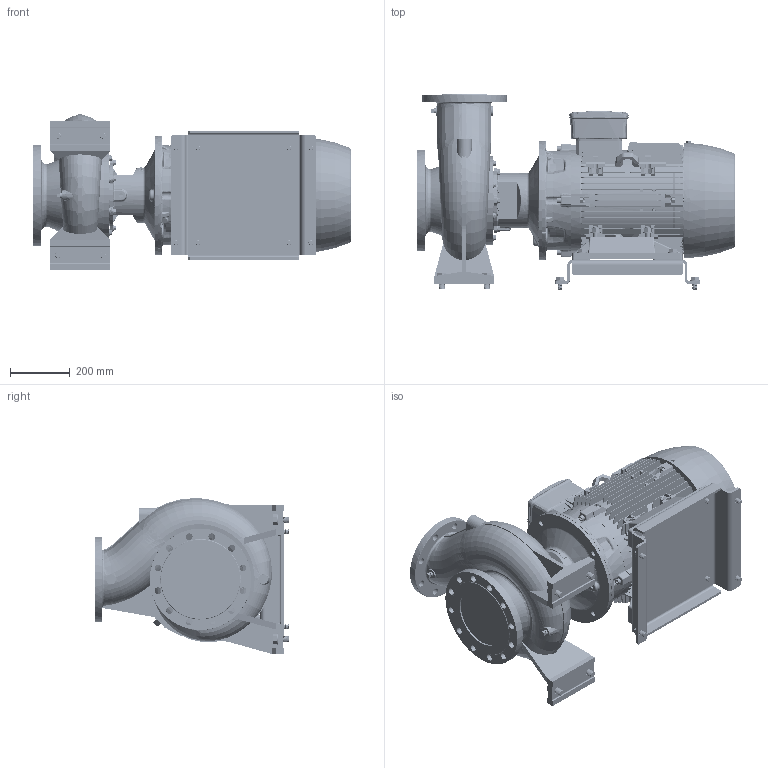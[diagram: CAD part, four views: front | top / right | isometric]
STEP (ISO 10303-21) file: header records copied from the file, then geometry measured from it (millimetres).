
FILE_DESCRIPTION (( 'STEP AP214' ), '1' );
FILE_NAME ('GSD2 150-200_37.0_(200ML)_W21.STEP', '2026-07-07T04:40:05', ( '' ), ( '' ), 'SwSTEP 2.0', 'SolidWorks 2024', '' );
FILE_SCHEMA (( 'AUTOMOTIVE_DESIGN' ));
Length unit declared in the file: millimetre
Products named in the file (12): Parametric bolt_SFT-A359B; Parametric bolt_SFT-A403B; Parametric bolt_SFT-A351B; Parametric Flat Washer_M16; CGS11-5273; 150-200-200M_L_ﾃﾞﾌｫﾙﾄ; GSD2  150-200_37.0_(200ML)_W21; Parametric bolt and washer_SFT-A359B; Parametric bolt and washer_SFT-A351B; Parametric bolt and washer_SFT-A403B; 200M_L ALIE3_W21T_B35; Parametric Flat Washer_M20
Assembly tree (21 placements, depth 3):
  GSD2  150-200_37.0_(200ML)_W21
    150-200-200M_L_ﾃﾞﾌｫﾙﾄ
    CGS11-5273
    Parametric bolt and washer_SFT-A403B  x4
      Parametric bolt_SFT-A403B
      Parametric Flat Washer_M20
    Parametric bolt and washer_SFT-A351B  x4
      Parametric bolt_SFT-A351B
      Parametric Flat Washer_M16
    Parametric bolt and washer_SFT-A359B  x4
      Parametric bolt_SFT-A359B
      Parametric Flat Washer_M16
    200M_L ALIE3_W21T_B35
Bounding box: 1068.8 x 653 x 522.29 mm (x, y, z)
Volume: 106324288.7 mm3; surface area: 5254074.6 mm2
Topology: 54 solids, 64 shells, 7475 faces, 19282 edges, 12351 vertices
Faces by surface type: plane 4255, cylinder 1417, bspline 1010, cone 590, torus 199, sphere 4
Entity records: 303091 total; most frequent: CARTESIAN_POINT 146278, ORIENTED_EDGE 35048, DIRECTION 28185, EDGE_CURVE 17524, VERTEX_POINT 11280, VECTOR 10773, LINE 10773, AXIS2_PLACEMENT_3D 8706
